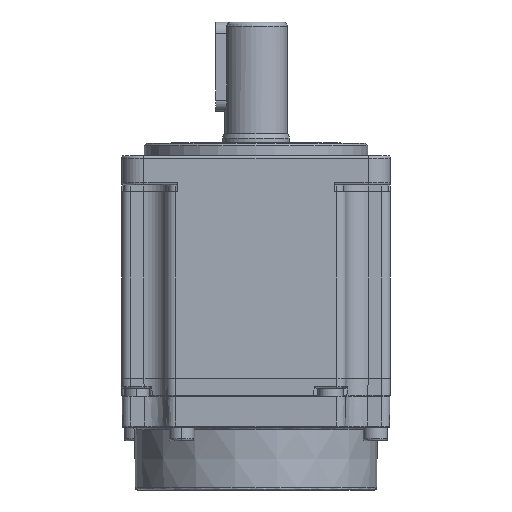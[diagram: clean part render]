
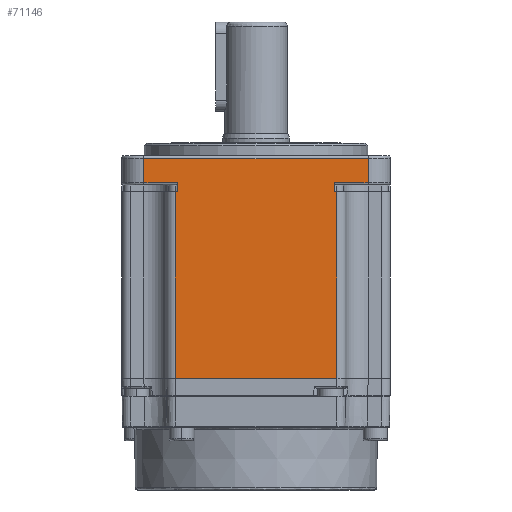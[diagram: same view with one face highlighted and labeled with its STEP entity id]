
A CAD part, front view. The second image highlights one B-rep face of the part: STEP entity #71146.
In plain terms, the highlighted planar face has unit normal (0, -1, 0).
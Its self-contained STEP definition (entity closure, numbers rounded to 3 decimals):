
#800 = CARTESIAN_POINT ( 'NONE',  ( 24.616, -39.646, 85.1 ) ) ;
#1873 = LINE ( 'NONE', #6592, #18141 ) ;
#2158 = CARTESIAN_POINT ( 'NONE',  ( -25.584, -39.646, 84.1 ) ) ;
#2159 = LINE ( 'NONE', #800, #55219 ) ;
#3311 = CARTESIAN_POINT ( 'NONE',  ( 24.616, -39.646, 78.7 ) ) ;
#3347 = DIRECTION ( 'NONE',  ( -1., 0., 0. ) ) ;
#3513 = ORIENTED_EDGE ( 'NONE', *, *, #65433, .T. ) ;
#6592 = CARTESIAN_POINT ( 'NONE',  ( -17.984, -39.646, 85.1 ) ) ;
#6685 = DIRECTION ( 'NONE',  ( -1., 0., 0. ) ) ;
#7033 = LINE ( 'NONE', #61663, #41673 ) ;
#7289 = DIRECTION ( 'NONE',  ( 0., 0., -1. ) ) ;
#7765 = DIRECTION ( 'NONE',  ( 0., 0., 1. ) ) ;
#10117 = CARTESIAN_POINT ( 'NONE',  ( -25.584, -39.646, 78.7 ) ) ;
#10820 = CARTESIAN_POINT ( 'NONE',  ( -17.984, -39.646, 78.7 ) ) ;
#11398 = VECTOR ( 'NONE', #27198, 1000. ) ;
#13603 = DIRECTION ( 'NONE',  ( 0., 0., 1. ) ) ;
#15677 = EDGE_CURVE ( 'NONE', #86952, #23220, #54450, .T. ) ;
#16043 = CARTESIAN_POINT ( 'NONE',  ( 17.616, -39.646, 85.1 ) ) ;
#17390 = VERTEX_POINT ( 'NONE', #2158 ) ;
#18141 = VECTOR ( 'NONE', #34079, 1000. ) ;
#18654 = LINE ( 'NONE', #48127, #39219 ) ;
#18731 = CARTESIAN_POINT ( 'NONE',  ( -17.984, -39.646, 78.7 ) ) ;
#18822 = CARTESIAN_POINT ( 'NONE',  ( 24.616, -39.646, 78.7 ) ) ;
#19394 = VERTEX_POINT ( 'NONE', #18731 ) ;
#22904 = CARTESIAN_POINT ( 'NONE',  ( -30.584, -39.646, 85.1 ) ) ;
#23220 = VERTEX_POINT ( 'NONE', #81114 ) ;
#25062 = EDGE_CURVE ( 'NONE', #74539, #48315, #2159, .T. ) ;
#25307 = ORIENTED_EDGE ( 'NONE', *, *, #52248, .F. ) ;
#25701 = FACE_OUTER_BOUND ( 'NONE', #73405, .T. ) ;
#26190 = VECTOR ( 'NONE', #39392, 1000. ) ;
#27065 = EDGE_CURVE ( 'NONE', #23220, #79562, #54874, .T. ) ;
#27198 = DIRECTION ( 'NONE',  ( 0., 0., -1. ) ) ;
#27404 = ORIENTED_EDGE ( 'NONE', *, *, #25062, .T. ) ;
#28106 = DIRECTION ( 'NONE',  ( -1., 0., 0. ) ) ;
#29201 = CARTESIAN_POINT ( 'NONE',  ( -18.584, -39.646, 76.7 ) ) ;
#30058 = LINE ( 'NONE', #34749, #44146 ) ;
#30201 = CARTESIAN_POINT ( 'NONE',  ( -17.984, -39.646, 76.7 ) ) ;
#33823 = ORIENTED_EDGE ( 'NONE', *, *, #65683, .T. ) ;
#34079 = DIRECTION ( 'NONE',  ( 0., 0., -1. ) ) ;
#34749 = CARTESIAN_POINT ( 'NONE',  ( -30.584, -39.646, 76.7 ) ) ;
#35957 = VECTOR ( 'NONE', #51173, 1000. ) ;
#36016 = VECTOR ( 'NONE', #71302, 1000. ) ;
#36816 = PLANE ( 'NONE',  #78103 ) ;
#39219 = VECTOR ( 'NONE', #6685, 1000. ) ;
#39392 = DIRECTION ( 'NONE',  ( 1., 0., 0. ) ) ;
#40458 = ORIENTED_EDGE ( 'NONE', *, *, #15677, .T. ) ;
#40525 = ORIENTED_EDGE ( 'NONE', *, *, #46914, .T. ) ;
#41673 = VECTOR ( 'NONE', #13603, 1000. ) ;
#41893 = ORIENTED_EDGE ( 'NONE', *, *, #64766, .T. ) ;
#43779 = DIRECTION ( 'NONE',  ( -1., 0., 0. ) ) ;
#44146 = VECTOR ( 'NONE', #28106, 1000. ) ;
#44184 = CARTESIAN_POINT ( 'NONE',  ( -30.584, -39.646, 84.1 ) ) ;
#44764 = CARTESIAN_POINT ( 'NONE',  ( -30.584, -39.646, 76.7 ) ) ;
#46914 = EDGE_CURVE ( 'NONE', #55442, #86021, #48213, .T. ) ;
#47373 = LINE ( 'NONE', #10820, #81815 ) ;
#48127 = CARTESIAN_POINT ( 'NONE',  ( -30.584, -39.646, 34.9 ) ) ;
#48213 = LINE ( 'NONE', #68580, #11398 ) ;
#48315 = VERTEX_POINT ( 'NONE', #71102 ) ;
#49045 = ORIENTED_EDGE ( 'NONE', *, *, #53268, .T. ) ;
#49179 = EDGE_CURVE ( 'NONE', #19394, #74737, #1873, .T. ) ;
#49949 = VERTEX_POINT ( 'NONE', #10117 ) ;
#51173 = DIRECTION ( 'NONE',  ( -1., 0., 0. ) ) ;
#52248 = EDGE_CURVE ( 'NONE', #86952, #86021, #18654, .T. ) ;
#52277 = DIRECTION ( 'NONE',  ( 1., 0., 0. ) ) ;
#53192 = VERTEX_POINT ( 'NONE', #65158 ) ;
#53268 = EDGE_CURVE ( 'NONE', #53192, #74539, #58651, .T. ) ;
#54450 = LINE ( 'NONE', #16043, #36016 ) ;
#54874 = LINE ( 'NONE', #44764, #89312 ) ;
#55219 = VECTOR ( 'NONE', #7765, 1000. ) ;
#55442 = VERTEX_POINT ( 'NONE', #29201 ) ;
#55993 = CARTESIAN_POINT ( 'NONE',  ( -25.584, -39.646, 85.1 ) ) ;
#57275 = VECTOR ( 'NONE', #7289, 1000. ) ;
#58651 = LINE ( 'NONE', #18822, #26190 ) ;
#58707 = LINE ( 'NONE', #44184, #35957 ) ;
#59430 = LINE ( 'NONE', #55993, #57275 ) ;
#60350 = ORIENTED_EDGE ( 'NONE', *, *, #27065, .T. ) ;
#61663 = CARTESIAN_POINT ( 'NONE',  ( 17.016, -39.646, 85.1 ) ) ;
#64766 = EDGE_CURVE ( 'NONE', #17390, #49949, #59430, .T. ) ;
#65158 = CARTESIAN_POINT ( 'NONE',  ( 17.016, -39.646, 78.7 ) ) ;
#65433 = EDGE_CURVE ( 'NONE', #74737, #55442, #30058, .T. ) ;
#65683 = EDGE_CURVE ( 'NONE', #49949, #19394, #47373, .T. ) ;
#68199 = EDGE_CURVE ( 'NONE', #79562, #53192, #7033, .T. ) ;
#68580 = CARTESIAN_POINT ( 'NONE',  ( -18.584, -39.646, 85.1 ) ) ;
#68860 = ORIENTED_EDGE ( 'NONE', *, *, #68199, .T. ) ;
#71102 = CARTESIAN_POINT ( 'NONE',  ( 24.616, -39.646, 84.1 ) ) ;
#71146 = ADVANCED_FACE ( 'NONE', ( #25701 ), #36816, .F. ) ;
#71302 = DIRECTION ( 'NONE',  ( 0., 0., 1. ) ) ;
#71999 = CARTESIAN_POINT ( 'NONE',  ( -18.584, -39.646, 34.9 ) ) ;
#73405 = EDGE_LOOP ( 'NONE', ( #25307, #40458, #60350, #68860, #49045, #27404, #84714, #41893, #33823, #82804, #3513, #40525 ) ) ;
#74539 = VERTEX_POINT ( 'NONE', #3311 ) ;
#74737 = VERTEX_POINT ( 'NONE', #30201 ) ;
#75486 = CARTESIAN_POINT ( 'NONE',  ( 17.616, -39.646, 34.9 ) ) ;
#76288 = CARTESIAN_POINT ( 'NONE',  ( 17.016, -39.646, 76.7 ) ) ;
#76868 = EDGE_CURVE ( 'NONE', #48315, #17390, #58707, .T. ) ;
#78103 = AXIS2_PLACEMENT_3D ( 'NONE', #22904, #85036, #43779 ) ;
#79562 = VERTEX_POINT ( 'NONE', #76288 ) ;
#81114 = CARTESIAN_POINT ( 'NONE',  ( 17.616, -39.646, 76.7 ) ) ;
#81815 = VECTOR ( 'NONE', #52277, 1000. ) ;
#82804 = ORIENTED_EDGE ( 'NONE', *, *, #49179, .T. ) ;
#84714 = ORIENTED_EDGE ( 'NONE', *, *, #76868, .T. ) ;
#85036 = DIRECTION ( 'NONE',  ( 0., 1., 0. ) ) ;
#86021 = VERTEX_POINT ( 'NONE', #71999 ) ;
#86952 = VERTEX_POINT ( 'NONE', #75486 ) ;
#89312 = VECTOR ( 'NONE', #3347, 1000. ) ;
